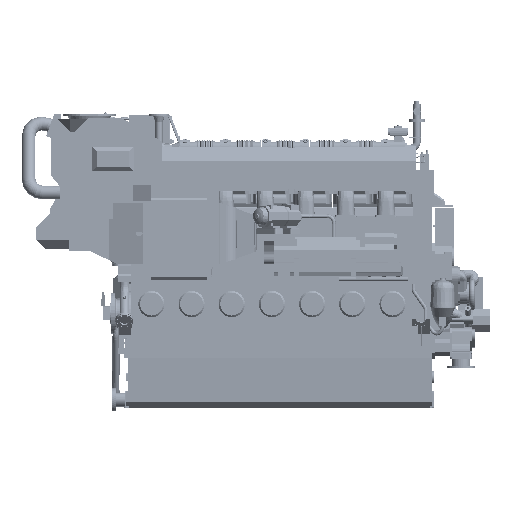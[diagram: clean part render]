
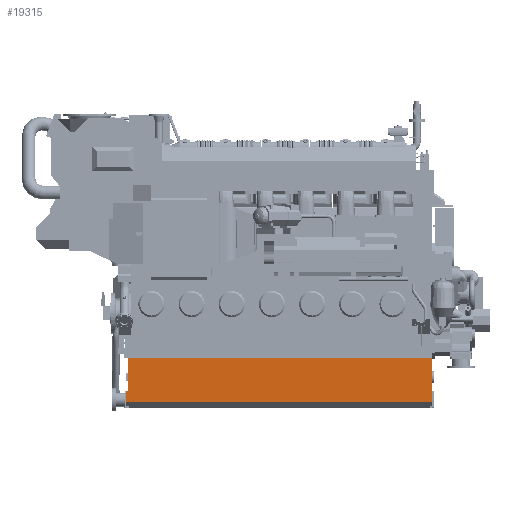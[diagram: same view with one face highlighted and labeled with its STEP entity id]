
A CAD part, front view. The second image highlights one B-rep face of the part: STEP entity #19315.
In plain terms, the highlighted planar face has unit normal (0, -0.999, -0.052).
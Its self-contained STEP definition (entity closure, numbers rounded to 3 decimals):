
#12173=FACE_OUTER_BOUND('',#62245,.T.);
#19315=ADVANCED_FACE('',(#12173),#27770,.T.);
#27770=PLANE('',#151283);
#32709=LINE('',#203779,#45765);
#32730=LINE('',#203847,#45786);
#32748=LINE('',#203892,#45804);
#32766=LINE('',#203953,#45822);
#32775=LINE('',#203969,#45831);
#32776=LINE('',#203970,#45832);
#45765=VECTOR('',#164300,1.);
#45786=VECTOR('',#164347,1.);
#45804=VECTOR('',#164375,1.);
#45822=VECTOR('',#164421,1.);
#45831=VECTOR('',#164436,1.);
#45832=VECTOR('',#164437,1.);
#62245=EDGE_LOOP('',(#72953,#72954,#72955,#72956,#72957,#72958));
#72953=ORIENTED_EDGE('',*,*,#126771,.F.);
#72954=ORIENTED_EDGE('',*,*,#126866,.F.);
#72955=ORIENTED_EDGE('',*,*,#126804,.T.);
#72956=ORIENTED_EDGE('',*,*,#126857,.T.);
#72957=ORIENTED_EDGE('',*,*,#126826,.F.);
#72958=ORIENTED_EDGE('',*,*,#126867,.F.);
#113240=VERTEX_POINT('',#203780);
#113241=VERTEX_POINT('',#203781);
#113273=VERTEX_POINT('',#203846);
#113274=VERTEX_POINT('',#203848);
#113284=VERTEX_POINT('',#203870);
#113295=VERTEX_POINT('',#203891);
#126771=EDGE_CURVE('',#113240,#113241,#32709,.T.);
#126804=EDGE_CURVE('',#113274,#113273,#32730,.T.);
#126826=EDGE_CURVE('',#113295,#113284,#32748,.T.);
#126857=EDGE_CURVE('',#113273,#113284,#32766,.T.);
#126866=EDGE_CURVE('',#113274,#113240,#32775,.T.);
#126867=EDGE_CURVE('',#113241,#113295,#32776,.T.);
#151283=AXIS2_PLACEMENT_3D('',#203971,#164438,#164439);
#164300=DIRECTION('',(0.,-0.052,0.999));
#164347=DIRECTION('',(0.,0.052,-0.999));
#164375=DIRECTION('',(0.,0.052,-0.999));
#164421=DIRECTION('',(1.,0.,0.));
#164436=DIRECTION('',(1.,0.,0.));
#164437=DIRECTION('',(1.,0.,0.));
#164438=DIRECTION('',(0.,-0.999,-0.052));
#164439=DIRECTION('',(0.,0.052,-0.999));
#203779=CARTESIAN_POINT('',(-3710.,-438.25,-545.));
#203780=CARTESIAN_POINT('',(-3710.,-417.179,-950.));
#203781=CARTESIAN_POINT('',(-3710.,-438.25,-545.));
#203846=CARTESIAN_POINT('',(-3730.,-410.5,-1078.395));
#203847=CARTESIAN_POINT('',(-3730.,-438.25,-545.));
#203848=CARTESIAN_POINT('',(-3730.,-417.179,-950.));
#203870=CARTESIAN_POINT('',(0.,-410.5,-1078.395));
#203891=CARTESIAN_POINT('',(0.,-438.25,-545.));
#203892=CARTESIAN_POINT('',(0.,-438.25,-545.));
#203953=CARTESIAN_POINT('',(-3730.,-410.5,-1078.395));
#203969=CARTESIAN_POINT('',(-3730.,-417.179,-950.));
#203970=CARTESIAN_POINT('',(-3730.,-438.25,-545.));
#203971=CARTESIAN_POINT('',(-3730.,-438.25,-545.));
